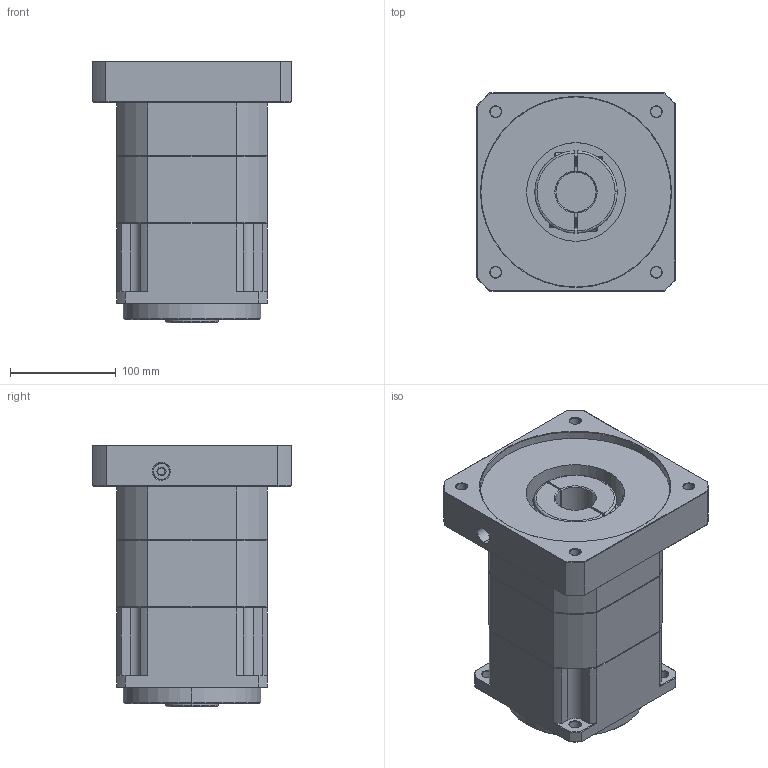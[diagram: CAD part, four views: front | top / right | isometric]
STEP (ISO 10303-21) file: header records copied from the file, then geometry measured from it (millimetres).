
FILE_DESCRIPTION (( 'STEP AP214' ), '1' );
FILE_NAME ('ZPB142-K35-L2-P1-38-180-215-M12.step', '2024-07-05T00:12:11', ( 'Windows 蚚誧' ), ( 'Organization' ), 'SwSTEP 2.0', 'SolidWorks 2016', '' );
FILE_SCHEMA (( 'AUTOMOTIVE_DESIGN' ));
Length unit declared in the file: millimetre
Products named in the file (1): ZPB142-K35-L2-P1-38-180-215-M12
Bounding box: 188 x 188 x 247.5 mm (x, y, z)
Surface area: 263705 mm2 (no closed solid volume)
Topology: 0 solids, 36 shells, 1773 faces, 4715 edges, 3018 vertices
Faces by surface type: plane 918, bspline 376, cone 265, cylinder 214
Entity records: 87218 total; most frequent: CARTESIAN_POINT 37755, ORIENTED_EDGE 9426, DIRECTION 7261, EDGE_CURVE 4715, VECTOR 3141, LINE 3141, VERTEX_POINT 3018, AXIS2_PLACEMENT_3D 2060
